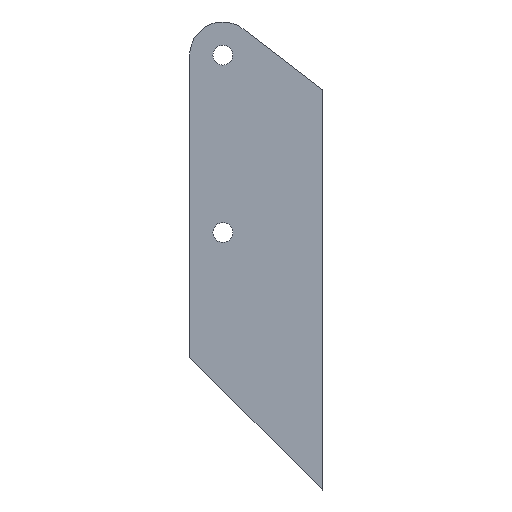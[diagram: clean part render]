
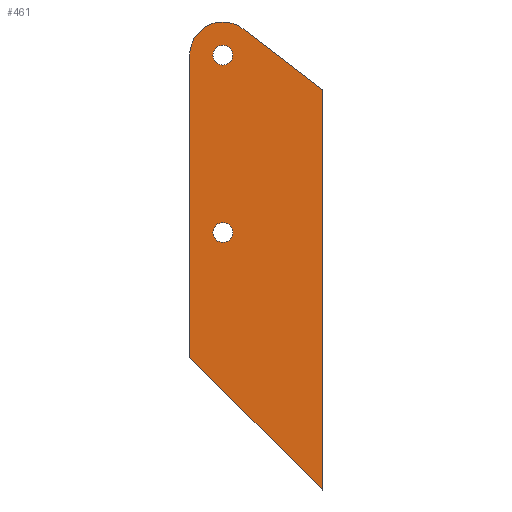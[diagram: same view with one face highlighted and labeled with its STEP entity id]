
A CAD part, top view. The second image highlights one B-rep face of the part: STEP entity #461.
In plain terms, the highlighted planar face has unit normal (0, 0, 1).
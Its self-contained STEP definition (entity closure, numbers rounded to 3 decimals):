
#217=PLANE('',#448);
#219=CIRCLE('',#438,15.);
#222=CIRCLE('',#447,4.5);
#223=CIRCLE('',#449,4.5);
#253=ORIENTED_EDGE('',*,*,#305,.T.);
#254=ORIENTED_EDGE('',*,*,#316,.F.);
#255=ORIENTED_EDGE('',*,*,#314,.F.);
#256=ORIENTED_EDGE('',*,*,#311,.F.);
#257=ORIENTED_EDGE('',*,*,#308,.F.);
#258=ORIENTED_EDGE('',*,*,#319,.F.);
#259=ORIENTED_EDGE('',*,*,#320,.F.);
#266=VECTOR('',#363,1.);
#269=VECTOR('',#368,1.);
#272=VECTOR('',#373,1.);
#274=VECTOR('',#377,1.);
#279=LINE('',#408,#266);
#282=LINE('',#414,#269);
#285=LINE('',#420,#272);
#287=LINE('',#423,#274);
#289=VERTEX_POINT('',#396);
#291=VERTEX_POINT('',#400);
#293=VERTEX_POINT('',#405);
#295=VERTEX_POINT('',#411);
#297=VERTEX_POINT('',#417);
#300=VERTEX_POINT('',#430);
#301=VERTEX_POINT('',#433);
#305=EDGE_CURVE('',#289,#291,#219,.T.);
#308=EDGE_CURVE('',#289,#293,#279,.T.);
#311=EDGE_CURVE('',#293,#295,#282,.T.);
#314=EDGE_CURVE('',#295,#297,#285,.T.);
#316=EDGE_CURVE('',#297,#291,#287,.T.);
#319=EDGE_CURVE('',#300,#300,#222,.T.);
#320=EDGE_CURVE('',#301,#301,#223,.T.);
#331=EDGE_LOOP('',(#253,#254,#255,#256,#257));
#332=EDGE_LOOP('',(#258));
#333=EDGE_LOOP('',(#259));
#346=FACE_BOUND('',#331,.T.);
#347=FACE_BOUND('',#332,.T.);
#348=FACE_BOUND('',#333,.T.);
#357=DIRECTION('',(0.,0.,1.));
#358=DIRECTION('',(0.,15.,0.));
#363=DIRECTION('',(35.848,-27.607,0.));
#368=DIRECTION('',(0.,-181.013,0.));
#373=DIRECTION('',(-60.,60.,0.));
#377=DIRECTION('',(0.,136.735,0.));
#386=DIRECTION('',(0.,0.,1.));
#387=DIRECTION('',(0.,-4.5,0.));
#388=DIRECTION('',(0.,0.,1.));
#389=DIRECTION('',(0.,-1.,0.));
#390=DIRECTION('',(0.,0.,1.));
#391=DIRECTION('',(0.,-4.5,0.));
#396=CARTESIAN_POINT('',(7748.656,13158.515,8.));
#400=CARTESIAN_POINT('',(7724.504,13146.63,8.));
#402=CARTESIAN_POINT('',(7739.504,13146.63,8.));
#405=CARTESIAN_POINT('',(7784.504,13130.908,8.));
#408=CARTESIAN_POINT('',(7748.656,13158.515,8.));
#411=CARTESIAN_POINT('',(7784.504,12949.895,8.));
#414=CARTESIAN_POINT('',(7784.504,13130.908,8.));
#417=CARTESIAN_POINT('',(7724.504,13009.895,8.));
#420=CARTESIAN_POINT('',(7784.504,12949.895,8.));
#423=CARTESIAN_POINT('',(7724.504,13009.895,8.));
#430=CARTESIAN_POINT('',(7739.504,13142.13,8.));
#431=CARTESIAN_POINT('',(7739.504,13146.63,8.));
#432=CARTESIAN_POINT('',(0.,0.,8.));
#433=CARTESIAN_POINT('',(7739.504,13061.859,8.));
#434=CARTESIAN_POINT('',(7739.504,13066.359,8.));
#438=AXIS2_PLACEMENT_3D('',#402,#357,#358);
#447=AXIS2_PLACEMENT_3D('',#431,#386,#387);
#448=AXIS2_PLACEMENT_3D('',#432,#388,#389);
#449=AXIS2_PLACEMENT_3D('',#434,#390,#391);
#461=ADVANCED_FACE('',(#346,#347,#348),#217,.T.);
